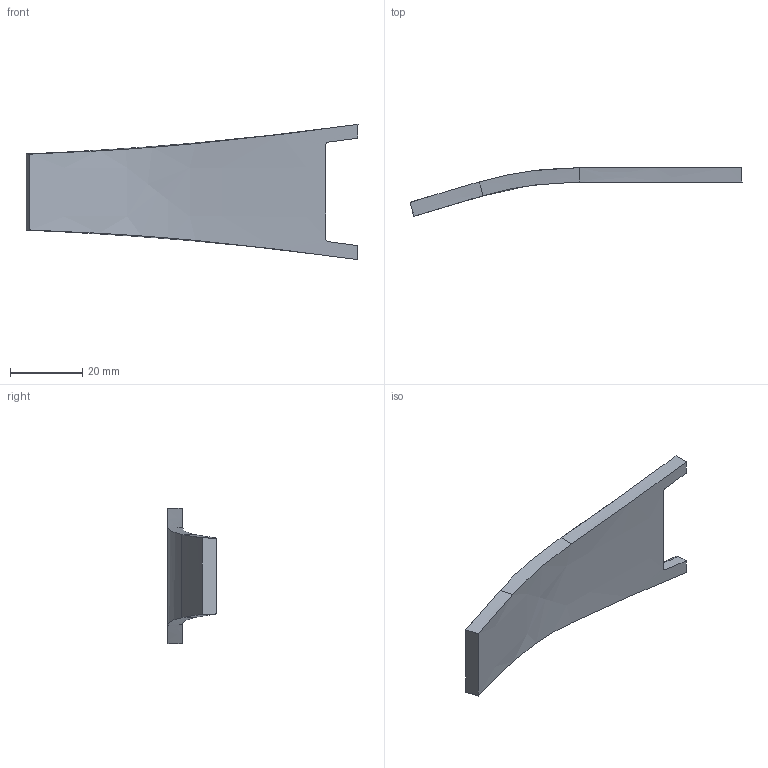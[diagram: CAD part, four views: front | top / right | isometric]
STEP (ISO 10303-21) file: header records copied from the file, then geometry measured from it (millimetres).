
FILE_DESCRIPTION(/* description */ (''),/* implementation_level */ '2;1');
FILE_NAME(/* name */ 'C:/Users/danie/Dropbox/OpenRC Formula 1 STL files/Dual Extrusion Files/Front Upper.stp',/* time_stamp */ '2016-05-30T22:57:40+02:00',/* author */ (''),/* organization */ (''),/* preprocessor_version */ 'ST-DEVELOPER v16.5',/* originating_system */ 'Autodesk Translation Framework v5.0.0.3310',/* authorisation */ '');
FILE_SCHEMA (('AUTOMOTIVE_DESIGN { 1 0 10303 214 3 1 1 }'));
Length unit declared in the file: centimetre
Products named in the file (1): Front Upper
Bounding box: 92.03 x 13.48 x 37.52 mm (x, y, z)
Volume: 8933.8 mm3; surface area: 5632.3 mm2
Topology: 1 solids, 1 shells, 30 faces, 73 edges, 45 vertices
Faces by surface type: bspline 12, torus 8, cylinder 7, plane 3
Entity records: 1555 total; most frequent: CARTESIAN_POINT 902, ORIENTED_EDGE 146, DIRECTION 99, EDGE_CURVE 73, VERTEX_POINT 45, AXIS2_PLACEMENT_3D 37, FACE_OUTER_BOUND 30, EDGE_LOOP 30
